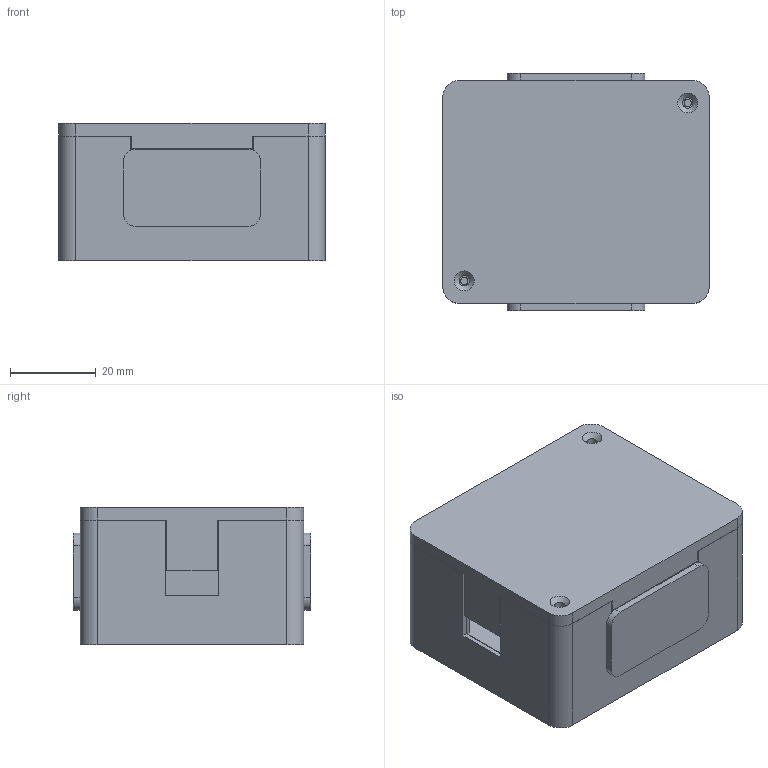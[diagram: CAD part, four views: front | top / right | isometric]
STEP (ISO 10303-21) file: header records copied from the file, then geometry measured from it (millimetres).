
FILE_DESCRIPTION(('Open CASCADE Model'),'2;1');
FILE_NAME('Open CASCADE Shape Model','2026-11-08T19:31:46',('Author'),( 'Open CASCADE'),'Open CASCADE STEP processor 7.8','Open CASCADE 7.8' ,'Unknown');
FILE_SCHEMA(('AUTOMOTIVE_DESIGN { 1 0 10303 214 1 1 1 1 }'));
Length unit declared in the file: millimetre
Products named in the file (7): Tally_V3_62x52x32; socle; couvercle; support_LED_avant; support_LED_arriere; diffuseur_avant; diffuseur_arriere
Assembly tree (6 placements, depth 2):
  Tally_V3_62x52x32
    socle
    couvercle
    support_LED_avant
    support_LED_arriere
    diffuseur_avant
    diffuseur_arriere
Bounding box: 62 x 55.2 x 32 mm (x, y, z)
Volume: 33880.9 mm3; surface area: 34985 mm2
Topology: 6 solids, 6 shells, 336 faces, 894 edges, 594 vertices
Faces by surface type: plane 258, cylinder 76, cone 2
Full cylindrical faces by diameter (mm): 1.7 x4, 2.4 x2, 5 x2
Entity records: 21896 total; most frequent: CARTESIAN_POINT 4176, DIRECTION 3134, LINE 2009, VECTOR 2009, ORIENTED_EDGE 1788, PCURVE 1788, DEFINITIONAL_REPRESENTATION 1788, EDGE_CURVE 894
